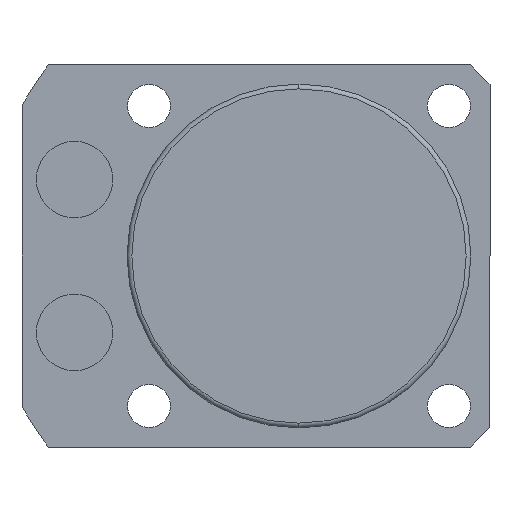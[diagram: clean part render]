
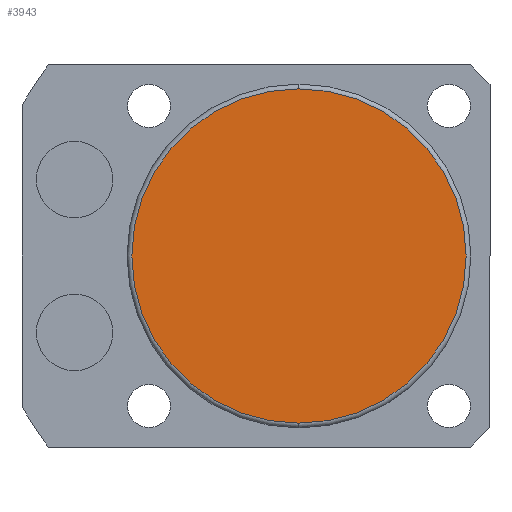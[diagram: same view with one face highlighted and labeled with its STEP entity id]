
A CAD part, front view. The second image highlights one B-rep face of the part: STEP entity #3943.
In plain terms, the highlighted planar face has unit normal (0, -1, 0).
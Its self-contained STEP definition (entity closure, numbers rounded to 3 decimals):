
#77 = DIRECTION ( 'NONE',  ( 0., -1., 0. ) ) ;
#330 = EDGE_LOOP ( 'NONE', ( #1202, #3267 ) ) ;
#477 = AXIS2_PLACEMENT_3D ( 'NONE', #925, #2889, #3288 ) ;
#582 = PLANE ( 'NONE',  #477 ) ;
#647 = EDGE_CURVE ( 'NONE', #3713, #4528, #3027, .T. ) ;
#767 = CARTESIAN_POINT ( 'NONE',  ( 0., -125.5, 0. ) ) ;
#792 = CARTESIAN_POINT ( 'NONE',  ( 0., -125.5, -17.5 ) ) ;
#925 = CARTESIAN_POINT ( 'NONE',  ( 0., -125.5, 0. ) ) ;
#1202 = ORIENTED_EDGE ( 'NONE', *, *, #647, .T. ) ;
#1795 = AXIS2_PLACEMENT_3D ( 'NONE', #767, #4657, #3128 ) ;
#2361 = FACE_OUTER_BOUND ( 'NONE', #330, .T. ) ;
#2809 = CIRCLE ( 'NONE', #1795, 17.5 ) ;
#2889 = DIRECTION ( 'NONE',  ( 0., -1., 0. ) ) ;
#3027 = CIRCLE ( 'NONE', #4146, 17.5 ) ;
#3128 = DIRECTION ( 'NONE',  ( 0., 0., -1. ) ) ;
#3267 = ORIENTED_EDGE ( 'NONE', *, *, #3363, .T. ) ;
#3288 = DIRECTION ( 'NONE',  ( 0., 0., -1. ) ) ;
#3363 = EDGE_CURVE ( 'NONE', #4528, #3713, #2809, .T. ) ;
#3633 = CARTESIAN_POINT ( 'NONE',  ( 0., -125.5, 17.5 ) ) ;
#3713 = VERTEX_POINT ( 'NONE', #792 ) ;
#3943 = ADVANCED_FACE ( 'NONE', ( #2361 ), #582, .T. ) ;
#4146 = AXIS2_PLACEMENT_3D ( 'NONE', #4749, #77, #4362 ) ;
#4362 = DIRECTION ( 'NONE',  ( 0., 0., -1. ) ) ;
#4528 = VERTEX_POINT ( 'NONE', #3633 ) ;
#4657 = DIRECTION ( 'NONE',  ( 0., -1., 0. ) ) ;
#4749 = CARTESIAN_POINT ( 'NONE',  ( 0., -125.5, 0. ) ) ;
